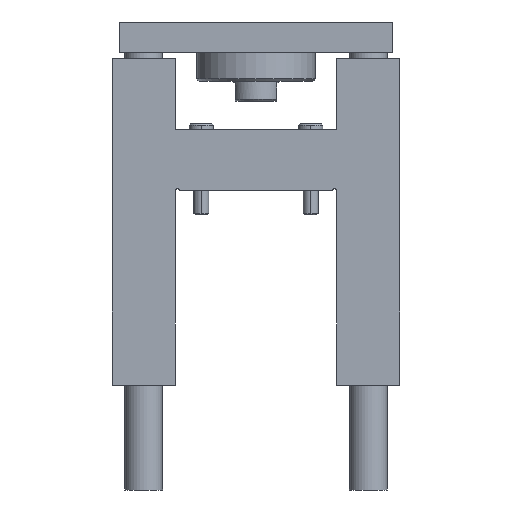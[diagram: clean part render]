
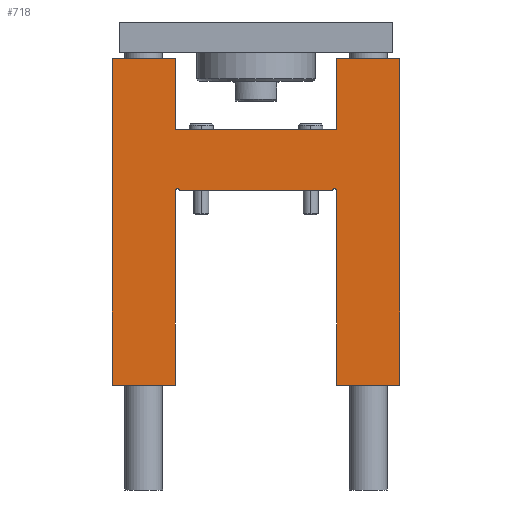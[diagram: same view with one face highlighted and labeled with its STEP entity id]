
A CAD part, front view. The second image highlights one B-rep face of the part: STEP entity #718.
In plain terms, the highlighted planar face has unit normal (0, -1, 0).
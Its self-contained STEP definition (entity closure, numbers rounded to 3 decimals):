
#73 = CARTESIAN_POINT ( 'NONE',  ( -94.5, -52.5, 87. ) ) ;
#83 = EDGE_CURVE ( 'NONE', #1161, #9206, #4760, .T. ) ;
#109 = DIRECTION ( 'NONE',  ( -1., 0., 0. ) ) ;
#117 = CARTESIAN_POINT ( 'NONE',  ( -53., -52.5, 87. ) ) ;
#197 = LINE ( 'NONE', #7738, #8634 ) ;
#222 = VECTOR ( 'NONE', #3194, 1000. ) ;
#235 = ORIENTED_EDGE ( 'NONE', *, *, #83, .F. ) ;
#306 = EDGE_CURVE ( 'NONE', #4420, #7104, #197, .T. ) ;
#562 = CIRCLE ( 'NONE', #9260, 1.25 ) ;
#633 = VERTEX_POINT ( 'NONE', #3432 ) ;
#718 = ADVANCED_FACE ( 'NONE', ( #2896 ), #2847, .F. ) ;
#791 = CARTESIAN_POINT ( 'NONE',  ( 94.5, -52.5, -128. ) ) ;
#855 = VECTOR ( 'NONE', #5870, 1000. ) ;
#858 = LINE ( 'NONE', #6695, #5746 ) ;
#884 = LINE ( 'NONE', #6724, #9501 ) ;
#1161 = VERTEX_POINT ( 'NONE', #3659 ) ;
#1310 = CARTESIAN_POINT ( 'NONE',  ( 51.75, -52.5, 0. ) ) ;
#1432 = LINE ( 'NONE', #6678, #855 ) ;
#1610 = CARTESIAN_POINT ( 'NONE',  ( 50.5, -52.5, 0. ) ) ;
#2013 = CARTESIAN_POINT ( 'NONE',  ( -53., -52.5, -128. ) ) ;
#2022 = LINE ( 'NONE', #7916, #8427 ) ;
#2106 = EDGE_CURVE ( 'NONE', #7086, #2845, #3083, .T. ) ;
#2119 = DIRECTION ( 'NONE',  ( 0., 0., -1. ) ) ;
#2320 = ORIENTED_EDGE ( 'NONE', *, *, #2106, .F. ) ;
#2381 = VERTEX_POINT ( 'NONE', #2013 ) ;
#2512 = VECTOR ( 'NONE', #8922, 1000. ) ;
#2711 = VECTOR ( 'NONE', #4414, 1000. ) ;
#2734 = CIRCLE ( 'NONE', #4444, 1.25 ) ;
#2750 = VECTOR ( 'NONE', #8246, 1000. ) ;
#2845 = VERTEX_POINT ( 'NONE', #5387 ) ;
#2847 = PLANE ( 'NONE',  #6089 ) ;
#2896 = FACE_OUTER_BOUND ( 'NONE', #5302, .T. ) ;
#2994 = LINE ( 'NONE', #73, #2711 ) ;
#3081 = ORIENTED_EDGE ( 'NONE', *, *, #6184, .F. ) ;
#3083 = LINE ( 'NONE', #3767, #2750 ) ;
#3194 = DIRECTION ( 'NONE',  ( -1., 0., 0. ) ) ;
#3224 = CARTESIAN_POINT ( 'NONE',  ( 53., -52.5, -128. ) ) ;
#3351 = ORIENTED_EDGE ( 'NONE', *, *, #3591, .F. ) ;
#3431 = DIRECTION ( 'NONE',  ( 1., 0., 0. ) ) ;
#3432 = CARTESIAN_POINT ( 'NONE',  ( 94.5, -52.5, 87. ) ) ;
#3591 = EDGE_CURVE ( 'NONE', #2381, #7086, #884, .T. ) ;
#3639 = VERTEX_POINT ( 'NONE', #1610 ) ;
#3659 = CARTESIAN_POINT ( 'NONE',  ( -53., -52.5, 40. ) ) ;
#3667 = CARTESIAN_POINT ( 'NONE',  ( -94.5, -52.5, -128. ) ) ;
#3767 = CARTESIAN_POINT ( 'NONE',  ( -94.5, -52.5, -128. ) ) ;
#3920 = CARTESIAN_POINT ( 'NONE',  ( 53., -52.5, 0. ) ) ;
#3987 = CARTESIAN_POINT ( 'NONE',  ( 94.5, -52.5, -128. ) ) ;
#4129 = EDGE_CURVE ( 'NONE', #633, #9544, #5830, .T. ) ;
#4193 = ORIENTED_EDGE ( 'NONE', *, *, #306, .F. ) ;
#4282 = EDGE_CURVE ( 'NONE', #6275, #1161, #7519, .T. ) ;
#4285 = VECTOR ( 'NONE', #6220, 1000. ) ;
#4317 = ORIENTED_EDGE ( 'NONE', *, *, #5791, .F. ) ;
#4414 = DIRECTION ( 'NONE',  ( 1., 0., 0. ) ) ;
#4420 = VERTEX_POINT ( 'NONE', #3224 ) ;
#4444 = AXIS2_PLACEMENT_3D ( 'NONE', #8459, #4664, #7635 ) ;
#4568 = ORIENTED_EDGE ( 'NONE', *, *, #6645, .F. ) ;
#4664 = DIRECTION ( 'NONE',  ( 0., 1., 0. ) ) ;
#4676 = CARTESIAN_POINT ( 'NONE',  ( -53., -52.5, 0. ) ) ;
#4711 = VERTEX_POINT ( 'NONE', #4676 ) ;
#4760 = LINE ( 'NONE', #9043, #4285 ) ;
#4787 = CARTESIAN_POINT ( 'NONE',  ( 53., -52.5, 40. ) ) ;
#5080 = EDGE_CURVE ( 'NONE', #4711, #6714, #2734, .T. ) ;
#5141 = CARTESIAN_POINT ( 'NONE',  ( 94.5, -52.5, 87. ) ) ;
#5184 = CARTESIAN_POINT ( 'NONE',  ( 51.75, -52.5, 0. ) ) ;
#5224 = EDGE_CURVE ( 'NONE', #3639, #7104, #562, .T. ) ;
#5302 = EDGE_LOOP ( 'NONE', ( #3351, #3081, #6172, #4568, #9471, #4193, #8322, #9142, #6102, #7998, #235, #5837, #4317, #2320 ) ) ;
#5387 = CARTESIAN_POINT ( 'NONE',  ( -94.5, -52.5, 87. ) ) ;
#5506 = DIRECTION ( 'NONE',  ( 0., 0., 1. ) ) ;
#5746 = VECTOR ( 'NONE', #7345, 1000. ) ;
#5791 = EDGE_CURVE ( 'NONE', #2845, #6275, #2994, .T. ) ;
#5796 = DIRECTION ( 'NONE',  ( 1., 0., 0. ) ) ;
#5830 = LINE ( 'NONE', #5141, #9179 ) ;
#5837 = ORIENTED_EDGE ( 'NONE', *, *, #4282, .F. ) ;
#5870 = DIRECTION ( 'NONE',  ( 0., 0., -1. ) ) ;
#5960 = LINE ( 'NONE', #791, #2512 ) ;
#5965 = DIRECTION ( 'NONE',  ( 0., 0., -1. ) ) ;
#6089 = AXIS2_PLACEMENT_3D ( 'NONE', #5184, #9521, #8790 ) ;
#6102 = ORIENTED_EDGE ( 'NONE', *, *, #7748, .F. ) ;
#6172 = ORIENTED_EDGE ( 'NONE', *, *, #5080, .T. ) ;
#6184 = EDGE_CURVE ( 'NONE', #4711, #2381, #1432, .T. ) ;
#6220 = DIRECTION ( 'NONE',  ( 1., 0., 0. ) ) ;
#6275 = VERTEX_POINT ( 'NONE', #8483 ) ;
#6645 = EDGE_CURVE ( 'NONE', #3639, #6714, #7043, .T. ) ;
#6678 = CARTESIAN_POINT ( 'NONE',  ( -53., -52.5, 0. ) ) ;
#6695 = CARTESIAN_POINT ( 'NONE',  ( 53., -52.5, 40. ) ) ;
#6714 = VERTEX_POINT ( 'NONE', #7092 ) ;
#6724 = CARTESIAN_POINT ( 'NONE',  ( -53., -52.5, -128. ) ) ;
#7043 = LINE ( 'NONE', #7674, #222 ) ;
#7086 = VERTEX_POINT ( 'NONE', #3667 ) ;
#7092 = CARTESIAN_POINT ( 'NONE',  ( -50.5, -52.5, 0. ) ) ;
#7104 = VERTEX_POINT ( 'NONE', #3920 ) ;
#7345 = DIRECTION ( 'NONE',  ( 0., 0., 1. ) ) ;
#7519 = LINE ( 'NONE', #117, #8561 ) ;
#7635 = DIRECTION ( 'NONE',  ( 1., 0., 0. ) ) ;
#7674 = CARTESIAN_POINT ( 'NONE',  ( 50.5, -52.5, 0. ) ) ;
#7738 = CARTESIAN_POINT ( 'NONE',  ( 53., -52.5, -128. ) ) ;
#7748 = EDGE_CURVE ( 'NONE', #8007, #633, #2022, .T. ) ;
#7913 = EDGE_CURVE ( 'NONE', #9544, #4420, #5960, .T. ) ;
#7916 = CARTESIAN_POINT ( 'NONE',  ( 53., -52.5, 87. ) ) ;
#7998 = ORIENTED_EDGE ( 'NONE', *, *, #8654, .F. ) ;
#8007 = VERTEX_POINT ( 'NONE', #8383 ) ;
#8027 = DIRECTION ( 'NONE',  ( 0., 1., 0. ) ) ;
#8246 = DIRECTION ( 'NONE',  ( 0., 0., 1. ) ) ;
#8322 = ORIENTED_EDGE ( 'NONE', *, *, #7913, .F. ) ;
#8383 = CARTESIAN_POINT ( 'NONE',  ( 53., -52.5, 87. ) ) ;
#8427 = VECTOR ( 'NONE', #3431, 1000. ) ;
#8459 = CARTESIAN_POINT ( 'NONE',  ( -51.75, -52.5, 0. ) ) ;
#8483 = CARTESIAN_POINT ( 'NONE',  ( -53., -52.5, 87. ) ) ;
#8561 = VECTOR ( 'NONE', #5965, 1000. ) ;
#8634 = VECTOR ( 'NONE', #5506, 1000. ) ;
#8654 = EDGE_CURVE ( 'NONE', #9206, #8007, #858, .T. ) ;
#8790 = DIRECTION ( 'NONE',  ( 1., 0., 0. ) ) ;
#8922 = DIRECTION ( 'NONE',  ( -1., 0., 0. ) ) ;
#9043 = CARTESIAN_POINT ( 'NONE',  ( -53., -52.5, 40. ) ) ;
#9142 = ORIENTED_EDGE ( 'NONE', *, *, #4129, .F. ) ;
#9179 = VECTOR ( 'NONE', #2119, 1000. ) ;
#9206 = VERTEX_POINT ( 'NONE', #4787 ) ;
#9260 = AXIS2_PLACEMENT_3D ( 'NONE', #1310, #8027, #5796 ) ;
#9471 = ORIENTED_EDGE ( 'NONE', *, *, #5224, .T. ) ;
#9501 = VECTOR ( 'NONE', #109, 1000. ) ;
#9521 = DIRECTION ( 'NONE',  ( 0., 1., 0. ) ) ;
#9544 = VERTEX_POINT ( 'NONE', #3987 ) ;
